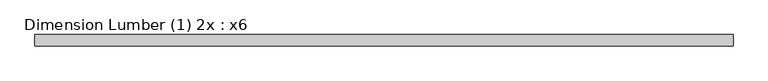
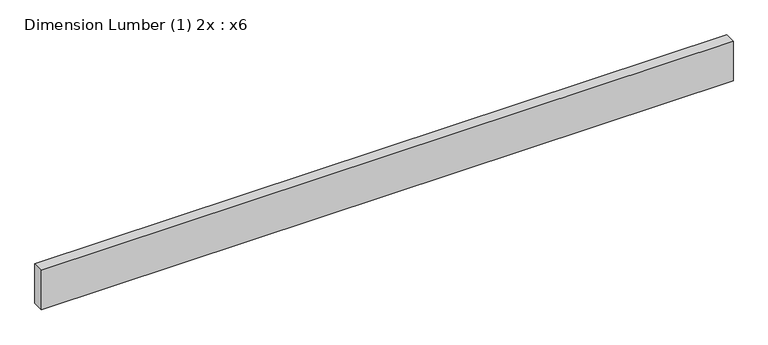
"""IFC4 building model written with IfcOpenShell, lengths in millimetres: beam geometry, Dimension Lumber (1) 2x : x6."""

from ifc_helpers import new_model, si_unit, frame, origin, place, context, project, spatial, polyline, outline, extrude, source, transform, mapped, element, save


def dimension_lumber_1_2x_x6_b2661593(model_context):
    return source(origin(), model_context, "Body", "SweptSolid", [
        extrude(outline(polyline([(1133.475, 19.05), (1133.475, -19.05), (-1190.6249994, -19.05), (-1190.6249994, 19.05), (1133.475, 19.05)])), frame((0.0, 0.0, -69.85), z_axis=(0.0, 0.0, 1.0), x_axis=(1.0, 0.0, 0.0)), (0.0, 0.0, 1.0), 139.7),
    ])


if __name__ == "__main__":
    model = new_model("IFC4")
    model_context = context("Model", 3, world=origin())
    ifc_project = project(units=[si_unit("LENGTHUNIT", "METRE", prefix="MILLI")], contexts=[model_context])
    site = spatial("IfcSite", under=ifc_project)
    building = spatial("IfcBuilding", under=site)
    placement = place(None, origin())
    dimension_lumber_1_2x_x6_shape = dimension_lumber_1_2x_x6_b2661593(model_context)
    element("IfcBeam", 1, ObjectType="Dimension Lumber (1) 2x : x6", at=placement, inside=building, context=model_context, shape_type="MappedRepresentation", body=[
        mapped(dimension_lumber_1_2x_x6_shape, transform((0.0, 0.0, 0.0), x_axis=(1.0, 0.0, 0.0), y_axis=(0.0, 1.0, 0.0), z_axis=(0.0, 0.0, 1.0))),
    ])
    save(model, "model.ifc")
